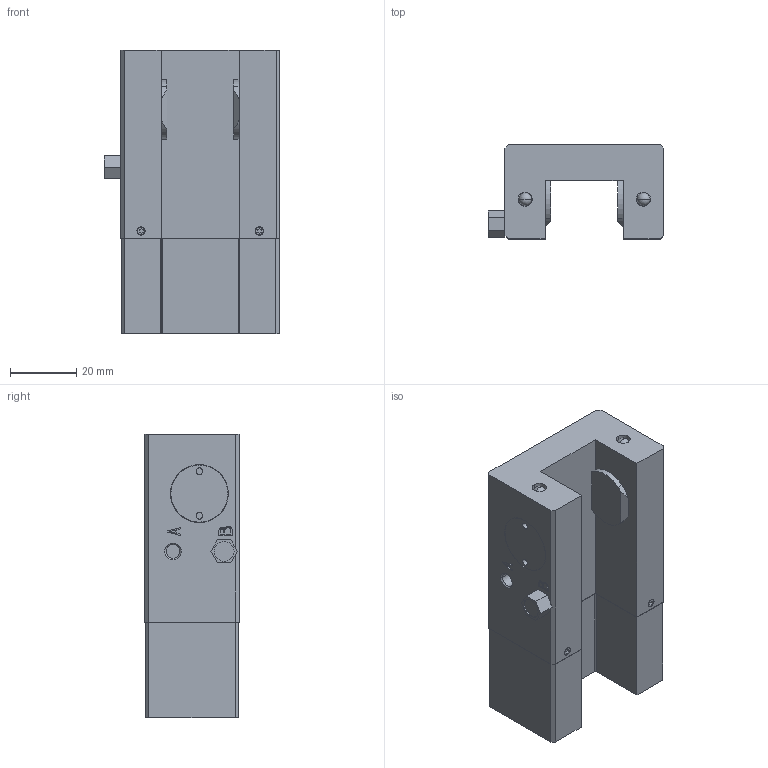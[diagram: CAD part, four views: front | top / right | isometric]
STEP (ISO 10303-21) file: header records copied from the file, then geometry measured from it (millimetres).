
FILE_DESCRIPTION( ( '' ), '1' );
FILE_NAME( 'E:/04 嬴檜蠱滌/0404 ZIMMER/040414 ZIMMER CAD download/LKPS/LKPS2502BS2---.stp', '2020-04-16T09:47:17', ( '' ), ( '' ), ' ', ' ', ' ' );
FILE_SCHEMA( ( 'automotive_design' ) );
Length unit declared in the file: millimetre
Products named in the file (1): 1
Bounding box: 53 x 28.5 x 85.9 mm (x, y, z)
Volume: 80767.7 mm3; surface area: 19848.3 mm2
Topology: 1 solids, 2 shells, 289 faces, 688 edges, 452 vertices
Faces by surface type: plane 183, cylinder 82, cone 16, sphere 4, torus 4
Entity records: 16344 total; most frequent: DIRECTION 1472, STYLED_ITEM 1426, PRESENTATION_STYLE_ASSIGNMENT 1426, CARTESIAN_POINT 1426, COLOUR_RGB 1426, ORIENTED_EDGE 1368, EDGE_CURVE 684, CURVE_STYLE 684
